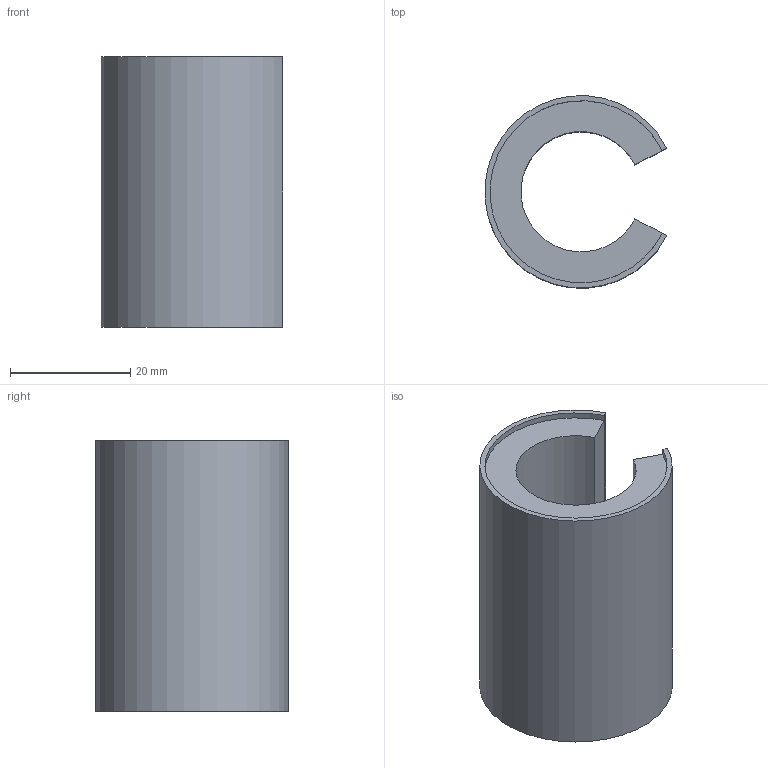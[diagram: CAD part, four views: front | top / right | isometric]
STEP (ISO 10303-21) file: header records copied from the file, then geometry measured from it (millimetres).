
FILE_DESCRIPTION(/* description */ (''),/* implementation_level */ '2;1');
FILE_NAME(/* name */ 'W:\WEBOVKY\Knecht\SBE (O)-UU\SBE (0)-20-UU\SME (O)-20-UU.stp',/* time_stamp */ '2021-03-08T14:36:26+01:00',/* author */ ('mkorenek'),/* organization */ (''),/* preprocessor_version */ 'ST-DEVELOPER v18.1',/* originating_system */ 'Autodesk Inventor 2021',/* authorisation */ '');
FILE_SCHEMA (('AUTOMOTIVE_DESIGN { 1 0 10303 214 3 1 1 }'));
Length unit declared in the file: millimetre
Products named in the file (3): LME-20-UU; vnitřek pouzdra; vnějšek pouzdra
Assembly tree (2 placements, depth 2):
  LME-20-UU
    vnitřek pouzdra
    vnějšek pouzdra
Bounding box: 30.19 x 31.93 x 45 mm (x, y, z)
Volume: 18046.3 mm3; surface area: 14615.8 mm2
Topology: 2 solids, 2 shells, 12 faces, 24 edges, 16 vertices
Faces by surface type: plane 8, cylinder 4
Entity records: 443 total; most frequent: DIRECTION 66, CARTESIAN_POINT 57, ORIENTED_EDGE 48, AXIS2_PLACEMENT_3D 25, EDGE_CURVE 24, LINE 16, VECTOR 16, VERTEX_POINT 16
